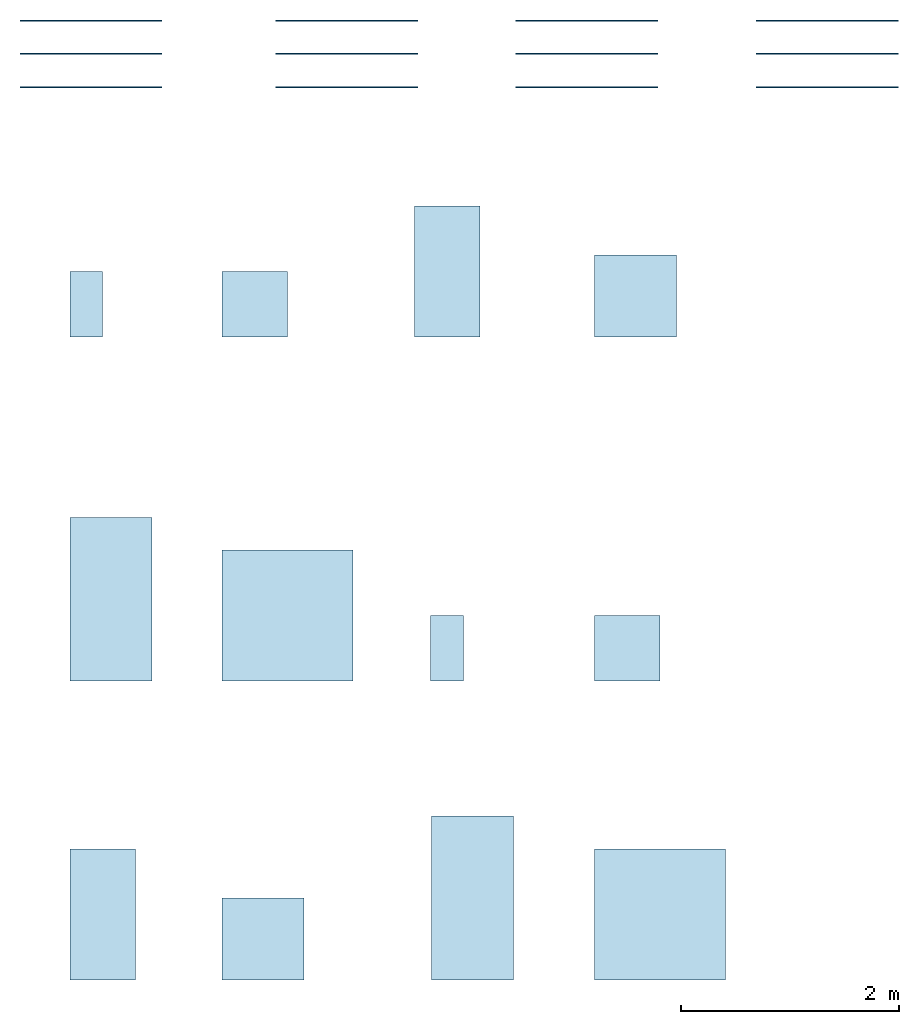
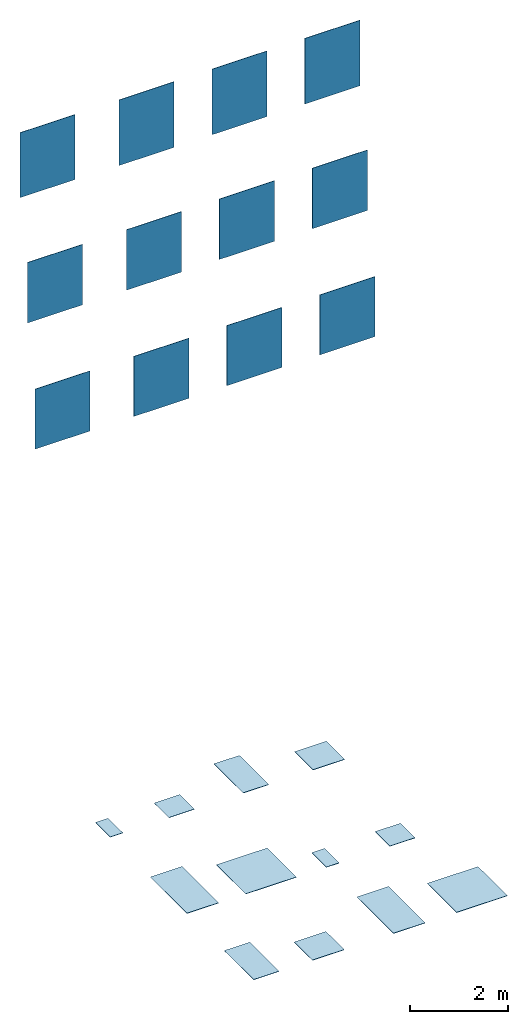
# One storey: 12 slabs, 12 walls.
"""IFC2X3 building model written with IfcOpenShell, lengths in millimetres."""

from ifc_helpers import new_model, entity, si_unit, converted_unit, derived_unit, direction, frame, frame_2d, origin, origin_2d_with_axis, place, context, subcontext, project, spatial, rectangle, extrude, material, layer, layer_set, layer_usage, type_object, element, save


model = new_model("IFC2X3")

# Units and contexts
model_context = context("Model", 3, precision=0.01, world=origin(), true_north=direction((6.12303176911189e-17, 1.0)))
body_context = subcontext(model_context, "Body", "Model", "MODEL_VIEW")
ifc_project = project(units=[si_unit("LENGTHUNIT", "METRE", prefix="MILLI"), si_unit("AREAUNIT", "SQUARE_METRE"), si_unit("VOLUMEUNIT", "CUBIC_METRE"), converted_unit("PLANEANGLEUNIT", "DEGREE", entity("IfcRatioMeasure", 0.0174532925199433), si_unit("PLANEANGLEUNIT", "RADIAN"), dimensions=[0, 0, 0, 0, 0, 0, 0]), si_unit("MASSUNIT", "GRAM", prefix="KILO"), derived_unit("MASSDENSITYUNIT", [(si_unit("MASSUNIT", "GRAM", prefix="KILO"), 1), (si_unit("LENGTHUNIT", "METRE"), -3)]), derived_unit("MOMENTOFINERTIAUNIT", [(si_unit("LENGTHUNIT", "METRE"), 4)]), si_unit("TIMEUNIT", "SECOND"), si_unit("FREQUENCYUNIT", "HERTZ"), si_unit("THERMODYNAMICTEMPERATUREUNIT", "DEGREE_CELSIUS"), derived_unit("THERMALTRANSMITTANCEUNIT", [(si_unit("MASSUNIT", "GRAM", prefix="KILO"), 1), (si_unit("THERMODYNAMICTEMPERATUREUNIT", "KELVIN"), -1), (si_unit("TIMEUNIT", "SECOND"), -3)]), derived_unit("VOLUMETRICFLOWRATEUNIT", [(si_unit("LENGTHUNIT", "METRE"), 3), (si_unit("TIMEUNIT", "SECOND"), -1)]), si_unit("ELECTRICCURRENTUNIT", "AMPERE"), si_unit("ELECTRICVOLTAGEUNIT", "VOLT"), si_unit("POWERUNIT", "WATT"), si_unit("FORCEUNIT", "NEWTON", prefix="KILO"), si_unit("ILLUMINANCEUNIT", "LUX"), si_unit("LUMINOUSFLUXUNIT", "LUMEN"), si_unit("LUMINOUSINTENSITYUNIT", "CANDELA"), derived_unit("USERDEFINED", [(si_unit("MASSUNIT", "GRAM", prefix="KILO"), -1), (si_unit("LENGTHUNIT", "METRE"), -2), (si_unit("TIMEUNIT", "SECOND"), 3), (si_unit("LUMINOUSFLUXUNIT", "LUMEN"), 1)]), derived_unit("LINEARVELOCITYUNIT", [(si_unit("LENGTHUNIT", "METRE"), 1), (si_unit("TIMEUNIT", "SECOND"), -1)]), si_unit("PRESSUREUNIT", "PASCAL"), derived_unit("USERDEFINED", [(si_unit("LENGTHUNIT", "METRE"), -2), (si_unit("MASSUNIT", "GRAM", prefix="KILO"), 1), (si_unit("TIMEUNIT", "SECOND"), -2)]), derived_unit("LINEARFORCEUNIT", [(si_unit("MASSUNIT", "GRAM", prefix="KILO"), 1), (si_unit("LENGTHUNIT", "METRE"), 1), (si_unit("TIMEUNIT", "SECOND"), -2), (si_unit("LENGTHUNIT", "METRE"), -1)]), derived_unit("PLANARFORCEUNIT", [(si_unit("MASSUNIT", "GRAM", prefix="KILO"), 1), (si_unit("LENGTHUNIT", "METRE"), 1), (si_unit("TIMEUNIT", "SECOND"), -2), (si_unit("LENGTHUNIT", "METRE"), -2)])], contexts=[model_context])

# Site, building, storey
site_placement = place(None, origin())
site = spatial("IfcSite", under=ifc_project, at=site_placement, Name="Default", CompositionType="ELEMENT")
building_placement = place(site_placement, origin())
building = spatial("IfcBuilding", under=site, at=building_placement, CompositionType="ELEMENT")
storey_placement = place(building_placement, origin())
storey = spatial("IfcBuildingStorey", under=building, at=storey_placement, Name="Level 0", CompositionType="ELEMENT", Elevation=0.0)

# Slabs
ifc_material_1 = material(Name="Mold-Mist-60x120 NC94")
ifc_layer_1 = layer(ifc_material_1, 9.0)
ifc_material_2 = material(Name="<Unnamed>")
ifc_layer_2 = layer(ifc_material_2, 1.0)
ifc_layer_set_1 = layer_set([ifc_layer_1, ifc_layer_2], Name="Floor:Floor_Tiles_Refin-Mold-Mist-60x120 NC94")
ifc_layer_usage_1 = layer_usage(ifc_layer_set_1, "AXIS3", "POSITIVE", 0.0)
slab_type_1 = type_object("IfcSlabType", Name="Floor:Floor_Tiles_Refin-Mold-Mist-60x120 NC94", PredefinedType="FLOOR", material=ifc_layer_set_1)
slab_1_placement = place(storey_placement, origin())
element("IfcSlab", 1, at=slab_1_placement, inside=storey, type_object=slab_type_1, material=ifc_layer_usage_1, Name="Floor:Floor_Tiles_Refin-Mold-Mist-60x120 NC94", ObjectType="Floor:Floor_Tiles_Refin-Mold-Mist-60x120 NC94", PredefinedType="FLOOR", context=body_context, shape_type="SweptSolid", body=[
    extrude(rectangle(XDim=1200.0, YDim=600.0, at=frame_2d((0.0, 1.08002495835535e-12), x_axis=(1.0, 0.0))), frame((9827.18614186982, 5839.46237428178, 0.0), z_axis=(0.0, 0.0, -1.0), x_axis=(0.0, 1.0, 0.0)), (0.0, 0.0, 1.0), 10.0),
])
ifc_material_3 = material(Name="Mold-Mist-30x60 MX34")
ifc_layer_3 = layer(ifc_material_3, 9.0)
ifc_layer_4 = layer(ifc_material_2, 1.0)
ifc_layer_set_2 = layer_set([ifc_layer_3, ifc_layer_4], Name="Floor:Floor_Tiles_Refin-Mold-Mist-30x60 MX34")
ifc_layer_usage_2 = layer_usage(ifc_layer_set_2, "AXIS3", "POSITIVE", 0.0)
slab_type_2 = type_object("IfcSlabType", Name="Floor:Floor_Tiles_Refin-Mold-Mist-30x60 MX34", PredefinedType="FLOOR", material=ifc_layer_set_2)
slab_2_placement = place(storey_placement, origin())
element("IfcSlab", 2, at=slab_2_placement, inside=storey, type_object=slab_type_2, material=ifc_layer_usage_2, Name="Floor:Floor_Tiles_Refin-Mold-Mist-30x60 MX34", ObjectType="Floor:Floor_Tiles_Refin-Mold-Mist-30x60 MX34", PredefinedType="FLOOR", context=body_context, shape_type="SweptSolid", body=[
    extrude(rectangle(XDim=600.0, YDim=300.0, at=frame_2d((0.0, -5.40012479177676e-13), x_axis=(1.0, 0.0))), frame((6524.37520617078, 5539.4623742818, 0.0), z_axis=(0.0, 0.0, -1.0), x_axis=(0.0, 1.0, 0.0)), (0.0, 0.0, 1.0), 10.0),
])
ifc_material_4 = material(Name="Mold-Mist-120x120 MY50")
ifc_layer_5 = layer(ifc_material_4, 9.0)
ifc_layer_6 = layer(ifc_material_2, 1.0)
ifc_layer_set_3 = layer_set([ifc_layer_5, ifc_layer_6], Name="Floor:Floor_Tiles_Refin-Mold-Mist-120x120 MY50")
ifc_layer_usage_3 = layer_usage(ifc_layer_set_3, "AXIS3", "POSITIVE", 0.0)
slab_type_3 = type_object("IfcSlabType", Name="Floor:Floor_Tiles_Refin-Mold-Mist-120x120 MY50", PredefinedType="FLOOR", material=ifc_layer_set_3)
slab_3_placement = place(storey_placement, origin())
element("IfcSlab", 3, at=slab_3_placement, inside=storey, type_object=slab_type_3, material=ifc_layer_usage_3, Name="Floor:Floor_Tiles_Refin-Mold-Mist-120x120 MY50", ObjectType="Floor:Floor_Tiles_Refin-Mold-Mist-120x120 MY50", PredefinedType="FLOOR", context=body_context, shape_type="SweptSolid", body=[
    extrude(rectangle(XDim=1200.0, YDim=1200.0, at=origin_2d_with_axis()), frame((8367.39240545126, 2689.4623742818, 0.0), z_axis=(0.0, 0.0, -1.0), x_axis=(0.0, 1.0, 0.0)), (0.0, 0.0, 1.0), 10.0),
])
ifc_material_5 = material(Name="Mold-Mist-75x150 MW61")
ifc_layer_7 = layer(ifc_material_5, 9.0)
ifc_layer_8 = layer(ifc_material_2, 1.0)
ifc_layer_set_4 = layer_set([ifc_layer_7, ifc_layer_8], Name="Floor:Floor_Tiles_Refin-Mold-Mist-75x150 MW61")
ifc_layer_usage_4 = layer_usage(ifc_layer_set_4, "AXIS3", "POSITIVE", 0.0)
slab_type_4 = type_object("IfcSlabType", Name="Floor:Floor_Tiles_Refin-Mold-Mist-75x150 MW61", PredefinedType="FLOOR", material=ifc_layer_set_4)
slab_4_placement = place(storey_placement, origin())
element("IfcSlab", 4, at=slab_4_placement, inside=storey, type_object=slab_type_4, material=ifc_layer_usage_4, Name="Floor:Floor_Tiles_Refin-Mold-Mist-75x150 MW61", ObjectType="Floor:Floor_Tiles_Refin-Mold-Mist-75x150 MW61", PredefinedType="FLOOR", context=body_context, shape_type="SweptSolid", body=[
    extrude(rectangle(XDim=1500.0, YDim=750.000000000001, at=origin_2d_with_axis()), frame((6749.37520617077, 2839.4623742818, 0.0), z_axis=(0.0, 0.0, -1.0), x_axis=(0.0, 1.0, 0.0)), (0.0, 0.0, 1.0), 10.0),
])
ifc_material_6 = material(Name="Mold-Mist-60x60 MX66")
ifc_layer_9 = layer(ifc_material_6, 9.0)
ifc_layer_10 = layer(ifc_material_2, 1.0)
ifc_layer_set_5 = layer_set([ifc_layer_9, ifc_layer_10], Name="Floor:Floor_Tiles_Refin-Mold-Mist-60x60 MX66")
ifc_layer_usage_5 = layer_usage(ifc_layer_set_5, "AXIS3", "POSITIVE", 0.0)
slab_type_5 = type_object("IfcSlabType", Name="Floor:Floor_Tiles_Refin-Mold-Mist-60x60 MX66", PredefinedType="FLOOR", material=ifc_layer_set_5)
slab_5_placement = place(storey_placement, origin())
element("IfcSlab", 5, at=slab_5_placement, inside=storey, type_object=slab_type_5, material=ifc_layer_usage_5, Name="Floor:Floor_Tiles_Refin-Mold-Mist-60x60 MX66", ObjectType="Floor:Floor_Tiles_Refin-Mold-Mist-60x60 MX66", PredefinedType="FLOOR", context=body_context, shape_type="SweptSolid", body=[
    extrude(rectangle(XDim=600.0, YDim=600.0, at=origin_2d_with_axis()), frame((8067.39240545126, 5538.41920639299, 0.0), z_axis=(0.0, 0.0, -1.0), x_axis=(0.0, 1.0, 0.0)), (0.0, 0.0, 1.0), 10.0),
])
ifc_material_7 = material(Name="Mold-Mist-Soft-30x60 MX35")
ifc_layer_11 = layer(ifc_material_7, 9.0)
ifc_layer_12 = layer(ifc_material_2, 1.0)
ifc_layer_set_6 = layer_set([ifc_layer_11, ifc_layer_12], Name="Floor:Floor_Tiles_Refin-Mold-Mist-Soft-30x60 MX35")
ifc_layer_usage_6 = layer_usage(ifc_layer_set_6, "AXIS3", "POSITIVE", 0.0)
slab_type_6 = type_object("IfcSlabType", Name="Floor:Floor_Tiles_Refin-Mold-Mist-Soft-30x60 MX35", PredefinedType="FLOOR", material=ifc_layer_set_6)
slab_6_placement = place(storey_placement, origin())
element("IfcSlab", 6, at=slab_6_placement, inside=storey, type_object=slab_type_6, material=ifc_layer_usage_6, Name="Floor:Floor_Tiles_Refin-Mold-Mist-Soft-30x60 MX35", ObjectType="Floor:Floor_Tiles_Refin-Mold-Mist-Soft-30x60 MX35", PredefinedType="FLOOR", context=body_context, shape_type="SweptSolid", body=[
    extrude(rectangle(XDim=600.0, YDim=300.000000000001, at=origin_2d_with_axis()), frame((9827.18614186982, 2389.46237428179, 0.0), z_axis=(0.0, 0.0, -1.0), x_axis=(0.0, 1.0, 0.0)), (0.0, 0.0, 1.0), 10.0),
])
ifc_material_8 = material(Name="Mold-Mist-75x75 MX97")
ifc_layer_13 = layer(ifc_material_8, 9.0)
ifc_layer_14 = layer(ifc_material_2, 1.0)
ifc_layer_set_7 = layer_set([ifc_layer_13, ifc_layer_14], Name="Floor:Floor_Tiles_Refin-Mold-Mist-75x75 MX97")
ifc_layer_usage_7 = layer_usage(ifc_layer_set_7, "AXIS3", "POSITIVE", 0.0)
slab_type_7 = type_object("IfcSlabType", Name="Floor:Floor_Tiles_Refin-Mold-Mist-75x75 MX97", PredefinedType="FLOOR", material=ifc_layer_set_7)
slab_7_placement = place(storey_placement, origin())
element("IfcSlab", 7, at=slab_7_placement, inside=storey, type_object=slab_type_7, material=ifc_layer_usage_7, Name="Floor:Floor_Tiles_Refin-Mold-Mist-75x75 MX97", ObjectType="Floor:Floor_Tiles_Refin-Mold-Mist-75x75 MX97", PredefinedType="FLOOR", context=body_context, shape_type="SweptSolid", body=[
    extrude(rectangle(XDim=750.0, YDim=750.000000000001, at=frame_2d((-5.40012479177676e-13, 1.08002495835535e-12), x_axis=(1.0, 0.0))), frame((11552.1861418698, 5614.46237428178, 0.0), z_axis=(0.0, 0.0, -1.0), x_axis=(0.0, 1.0, 0.0)), (0.0, 0.0, 1.0), 10.0),
])
ifc_material_9 = material(Name="Mold-Mist-Soft-60x60 MX67")
ifc_layer_15 = layer(ifc_material_9, 9.0)
ifc_layer_16 = layer(ifc_material_2, 1.0)
ifc_layer_set_8 = layer_set([ifc_layer_15, ifc_layer_16], Name="Floor:Floor_Tiles_Refin-Mold-Mist-Soft-60x60 MX67")
ifc_layer_usage_8 = layer_usage(ifc_layer_set_8, "AXIS3", "POSITIVE", 0.0)
slab_type_8 = type_object("IfcSlabType", Name="Floor:Floor_Tiles_Refin-Mold-Mist-Soft-60x60 MX67", PredefinedType="FLOOR", material=ifc_layer_set_8)
slab_8_placement = place(storey_placement, origin())
element("IfcSlab", 8, at=slab_8_placement, inside=storey, type_object=slab_type_8, material=ifc_layer_usage_8, Name="Floor:Floor_Tiles_Refin-Mold-Mist-Soft-60x60 MX67", ObjectType="Floor:Floor_Tiles_Refin-Mold-Mist-Soft-60x60 MX67", PredefinedType="FLOOR", context=body_context, shape_type="SweptSolid", body=[
    extrude(rectangle(XDim=600.0, YDim=600.0, at=frame_2d((0.0, -1.08002495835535e-12), x_axis=(1.0, 0.0))), frame((11477.1861418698, 2389.46237428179, 0.0), z_axis=(0.0, 0.0, -1.0), x_axis=(0.0, 1.0, 0.0)), (0.0, 0.0, 1.0), 10.0),
])
ifc_material_10 = material(Name="Mold-Mist-Soft-75x75 MX98")
ifc_layer_17 = layer(ifc_material_10, 9.0)
ifc_layer_18 = layer(ifc_material_2, 1.0)
ifc_layer_set_9 = layer_set([ifc_layer_17, ifc_layer_18], Name="Floor:Floor_Tiles_Refin-Mold-Mist-Soft-75x75 MX98")
ifc_layer_usage_9 = layer_usage(ifc_layer_set_9, "AXIS3", "POSITIVE", 0.0)
slab_type_9 = type_object("IfcSlabType", Name="Floor:Floor_Tiles_Refin-Mold-Mist-Soft-75x75 MX98", PredefinedType="FLOOR", material=ifc_layer_set_9)
slab_9_placement = place(storey_placement, origin())
element("IfcSlab", 9, at=slab_9_placement, inside=storey, type_object=slab_type_9, material=ifc_layer_usage_9, Name="Floor:Floor_Tiles_Refin-Mold-Mist-Soft-75x75 MX98", ObjectType="Floor:Floor_Tiles_Refin-Mold-Mist-Soft-75x75 MX98", PredefinedType="FLOOR", context=body_context, shape_type="SweptSolid", body=[
    extrude(rectangle(XDim=750.0, YDim=750.000000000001, at=origin_2d_with_axis()), frame((8142.39240545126, -271.563276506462, 0.0), z_axis=(0.0, 0.0, -1.0), x_axis=(0.0, 1.0, 0.0)), (0.0, 0.0, 1.0), 10.0),
])
ifc_material_11 = material(Name="Mold-Mist-Soft-75x150 MW65")
ifc_layer_19 = layer(ifc_material_11, 9.0)
ifc_layer_20 = layer(ifc_material_2, 1.0)
ifc_layer_set_10 = layer_set([ifc_layer_19, ifc_layer_20], Name="Floor:Floor_Tiles_Refin-Mold-Mist-Soft-75x150 MW65")
ifc_layer_usage_10 = layer_usage(ifc_layer_set_10, "AXIS3", "POSITIVE", 0.0)
slab_type_10 = type_object("IfcSlabType", Name="Floor:Floor_Tiles_Refin-Mold-Mist-Soft-75x150 MW65", PredefinedType="FLOOR", material=ifc_layer_set_10)
slab_10_placement = place(storey_placement, origin())
element("IfcSlab", 10, at=slab_10_placement, inside=storey, type_object=slab_type_10, material=ifc_layer_usage_10, Name="Floor:Floor_Tiles_Refin-Mold-Mist-Soft-75x150 MW65", ObjectType="Floor:Floor_Tiles_Refin-Mold-Mist-Soft-75x150 MW65", PredefinedType="FLOOR", context=body_context, shape_type="SweptSolid", body=[
    extrude(rectangle(XDim=1500.0, YDim=750.000000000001, at=frame_2d((0.0, -1.08002495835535e-12), x_axis=(1.0, 0.0))), frame((10059.1689425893, 103.436723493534, 0.0), z_axis=(0.0, 0.0, -1.0), x_axis=(0.0, 1.0, 0.0)), (0.0, 0.0, 1.0), 10.0),
])
ifc_material_12 = material(Name="Mold-Mist-Soft-60x120 NC95")
ifc_layer_21 = layer(ifc_material_12, 9.0)
ifc_layer_22 = layer(ifc_material_2, 1.0)
ifc_layer_set_11 = layer_set([ifc_layer_21, ifc_layer_22], Name="Floor:Floor_Tiles_Refin-Mold-Mist-Soft-60x120 NC95")
ifc_layer_usage_11 = layer_usage(ifc_layer_set_11, "AXIS3", "POSITIVE", 0.0)
slab_type_11 = type_object("IfcSlabType", Name="Floor:Floor_Tiles_Refin-Mold-Mist-Soft-60x120 NC95", PredefinedType="FLOOR", material=ifc_layer_set_11)
slab_11_placement = place(storey_placement, origin())
element("IfcSlab", 11, at=slab_11_placement, inside=storey, type_object=slab_type_11, material=ifc_layer_usage_11, Name="Floor:Floor_Tiles_Refin-Mold-Mist-Soft-60x120 NC95", ObjectType="Floor:Floor_Tiles_Refin-Mold-Mist-Soft-60x120 NC95", PredefinedType="FLOOR", context=body_context, shape_type="SweptSolid", body=[
    extrude(rectangle(XDim=1200.0, YDim=600.0, at=origin_2d_with_axis()), frame((6674.37520617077, -46.5632765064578, 0.0), z_axis=(0.0, 0.0, -1.0), x_axis=(0.0, 1.0, 0.0)), (0.0, 0.0, 1.0), 10.0),
])
ifc_material_13 = material(Name="Mold-Mist-Soft-120x120 MY51")
ifc_layer_23 = layer(ifc_material_13, 9.0)
ifc_layer_24 = layer(ifc_material_2, 1.0)
ifc_layer_set_12 = layer_set([ifc_layer_23, ifc_layer_24], Name="Floor:Floor_Tiles_Refin-Mold-Mist-Soft-120x120 MY51")
ifc_layer_usage_12 = layer_usage(ifc_layer_set_12, "AXIS3", "POSITIVE", 0.0)
slab_type_12 = type_object("IfcSlabType", Name="Floor:Floor_Tiles_Refin-Mold-Mist-Soft-120x120 MY51", PredefinedType="FLOOR", material=ifc_layer_set_12)
slab_12_placement = place(storey_placement, origin())
element("IfcSlab", 12, at=slab_12_placement, inside=storey, type_object=slab_type_12, material=ifc_layer_usage_12, Name="Floor:Floor_Tiles_Refin-Mold-Mist-Soft-120x120 MY51", ObjectType="Floor:Floor_Tiles_Refin-Mold-Mist-Soft-120x120 MY51", PredefinedType="FLOOR", context=body_context, shape_type="SweptSolid", body=[
    extrude(rectangle(XDim=1200.0, YDim=1200.0, at=origin_2d_with_axis()), frame((11777.1861418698, -46.5632765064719, 0.0), z_axis=(0.0, 0.0, -1.0), x_axis=(0.0, 1.0, 0.0)), (0.0, 0.0, 1.0), 10.0),
])

# Walls
ifc_layer_25 = layer(ifc_material_2, 1.0)
ifc_layer_26 = layer(ifc_material_6, 9.0)
ifc_layer_set_13 = layer_set([ifc_layer_25, ifc_layer_26], Name="Basic Wall:Wall_Tiles_Refin-Mold-Mist-60x60 MX66")
ifc_layer_usage_13 = layer_usage(ifc_layer_set_13, "AXIS2", "NEGATIVE", 5.0)
wall_type_1 = type_object("IfcWallType", Name="Basic Wall:Wall_Tiles_Refin-Mold-Mist-60x60 MX66", PredefinedType="STANDARD", material=ifc_layer_set_13)
wall_1_placement = place(storey_placement, frame((8257.37520617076, 8137.38386313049, 14387.6770443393)))
element("IfcWallStandardCase", 13, at=wall_1_placement, inside=storey, type_object=wall_type_1, material=ifc_layer_usage_13, Name="Basic Wall:Wall_Tiles_Refin-Mold-Mist-60x60 MX66", ObjectType="Basic Wall:Wall_Tiles_Refin-Mold-Mist-60x60 MX66", context=body_context, shape_type="SweptSolid", body=[
    extrude(rectangle(XDim=1300.0, YDim=9.99999999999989, at=frame_2d((650.0, 7.63833440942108e-14), x_axis=(-1.0, 0.0))), origin(), (0.0, 0.0, 1.0), 1641.74173522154),
])
ifc_layer_27 = layer(ifc_material_2, 1.0)
ifc_layer_28 = layer(ifc_material_1, 9.0)
ifc_layer_set_14 = layer_set([ifc_layer_27, ifc_layer_28], Name="Basic Wall:Wall_Tiles_Refin-Mold-Mist-60x120 NC94")
ifc_layer_usage_14 = layer_usage(ifc_layer_set_14, "AXIS2", "NEGATIVE", 5.0)
wall_type_2 = type_object("IfcWallType", Name="Basic Wall:Wall_Tiles_Refin-Mold-Mist-60x120 NC94", PredefinedType="STANDARD", material=ifc_layer_set_14)
wall_2_placement = place(storey_placement, frame((10457.3752061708, 8137.38386313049, 14387.6770443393)))
element("IfcWallStandardCase", 14, at=wall_2_placement, inside=storey, type_object=wall_type_2, material=ifc_layer_usage_14, Name="Basic Wall:Wall_Tiles_Refin-Mold-Mist-60x120 NC94", ObjectType="Basic Wall:Wall_Tiles_Refin-Mold-Mist-60x120 NC94", context=body_context, shape_type="SweptSolid", body=[
    extrude(rectangle(XDim=1300.0, YDim=9.99999999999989, at=frame_2d((650.0, 7.63833440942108e-14), x_axis=(-1.0, 0.0))), origin(), (0.0, 0.0, 1.0), 1641.74173522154),
])
ifc_layer_29 = layer(ifc_material_2, 1.0)
ifc_layer_30 = layer(ifc_material_3, 9.0)
ifc_layer_set_15 = layer_set([ifc_layer_29, ifc_layer_30], Name="Basic Wall:Wall_Tiles_Refin-Mold-Mist-30x60 MX34")
ifc_layer_usage_15 = layer_usage(ifc_layer_set_15, "AXIS2", "NEGATIVE", 5.0)
wall_type_3 = type_object("IfcWallType", Name="Basic Wall:Wall_Tiles_Refin-Mold-Mist-30x60 MX34", PredefinedType="STANDARD", material=ifc_layer_set_15)
wall_3_placement = place(storey_placement, frame((5917.37520617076, 8137.38386313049, 14403.726734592)))
element("IfcWallStandardCase", 15, at=wall_3_placement, inside=storey, type_object=wall_type_3, material=ifc_layer_usage_15, Name="Basic Wall:Wall_Tiles_Refin-Mold-Mist-30x60 MX34", ObjectType="Basic Wall:Wall_Tiles_Refin-Mold-Mist-30x60 MX34", context=body_context, shape_type="SweptSolid", body=[
    extrude(rectangle(XDim=1300.0, YDim=9.99999999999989, at=frame_2d((650.0, 7.63833440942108e-14), x_axis=(-1.0, 0.0))), origin(), (0.0, 0.0, 1.0), 1625.69204496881),
])
ifc_layer_31 = layer(ifc_material_2, 1.0)
ifc_layer_32 = layer(ifc_material_5, 9.0)
ifc_layer_set_16 = layer_set([ifc_layer_31, ifc_layer_32], Name="Basic Wall:Wall_Tiles_Refin-Mold-Mist-75x150 MW61")
ifc_layer_usage_16 = layer_usage(ifc_layer_set_16, "AXIS2", "NEGATIVE", 5.0)
wall_type_4 = type_object("IfcWallType", Name="Basic Wall:Wall_Tiles_Refin-Mold-Mist-75x150 MW61", PredefinedType="STANDARD", material=ifc_layer_set_16)
wall_4_placement = place(storey_placement, frame((5917.37520617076, 7832.38386313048, 11452.5436262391)))
element("IfcWallStandardCase", 16, at=wall_4_placement, inside=storey, type_object=wall_type_4, material=ifc_layer_usage_16, Name="Basic Wall:Wall_Tiles_Refin-Mold-Mist-75x150 MW61", ObjectType="Basic Wall:Wall_Tiles_Refin-Mold-Mist-75x150 MW61", context=body_context, shape_type="SweptSolid", body=[
    extrude(rectangle(XDim=1300.0, YDim=9.99999999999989, at=frame_2d((650.0, 0.0), x_axis=(-1.0, 0.0))), origin(), (0.0, 0.0, 1.0), 1513.19855655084),
])
ifc_layer_33 = layer(ifc_material_2, 1.0)
ifc_layer_34 = layer(ifc_material_4, 9.0)
ifc_layer_set_17 = layer_set([ifc_layer_33, ifc_layer_34], Name="Basic Wall:Wall_Tiles_Refin-Mold-Mist-120x120 MY50")
ifc_layer_usage_17 = layer_usage(ifc_layer_set_17, "AXIS2", "NEGATIVE", 5.0)
wall_type_5 = type_object("IfcWallType", Name="Basic Wall:Wall_Tiles_Refin-Mold-Mist-120x120 MY50", PredefinedType="STANDARD", material=ifc_layer_set_17)
wall_5_placement = place(storey_placement, frame((8257.37520617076, 7832.38386313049, 11452.5436262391)))
element("IfcWallStandardCase", 17, at=wall_5_placement, inside=storey, type_object=wall_type_5, material=ifc_layer_usage_17, Name="Basic Wall:Wall_Tiles_Refin-Mold-Mist-120x120 MY50", ObjectType="Basic Wall:Wall_Tiles_Refin-Mold-Mist-120x120 MY50", context=body_context, shape_type="SweptSolid", body=[
    extrude(rectangle(XDim=1300.0, YDim=9.99999999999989, at=frame_2d((650.0, 0.0), x_axis=(-1.0, 0.0))), origin(), (0.0, 0.0, 1.0), 1513.19855655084),
])
ifc_layer_35 = layer(ifc_material_2, 1.0)
ifc_layer_36 = layer(ifc_material_7, 9.0)
ifc_layer_set_18 = layer_set([ifc_layer_35, ifc_layer_36], Name="Basic Wall:Wall_Tiles_Refin-Mold-Mist-Soft-30x60 MX35")
ifc_layer_usage_18 = layer_usage(ifc_layer_set_18, "AXIS2", "NEGATIVE", 5.0)
wall_type_6 = type_object("IfcWallType", Name="Basic Wall:Wall_Tiles_Refin-Mold-Mist-Soft-30x60 MX35", PredefinedType="STANDARD", material=ifc_layer_set_18)
wall_6_placement = place(storey_placement, frame((10457.3752061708, 7832.38386313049, 11452.5436262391)))
element("IfcWallStandardCase", 18, at=wall_6_placement, inside=storey, type_object=wall_type_6, material=ifc_layer_usage_18, Name="Basic Wall:Wall_Tiles_Refin-Mold-Mist-Soft-30x60 MX35", ObjectType="Basic Wall:Wall_Tiles_Refin-Mold-Mist-Soft-30x60 MX35", context=body_context, shape_type="SweptSolid", body=[
    extrude(rectangle(XDim=1300.0, YDim=9.99999999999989, at=frame_2d((650.000000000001, 0.0), x_axis=(-1.0, 0.0))), origin(), (0.0, 0.0, 1.0), 1513.19855655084),
])
ifc_layer_37 = layer(ifc_material_2, 1.0)
ifc_layer_38 = layer(ifc_material_12, 9.0)
ifc_layer_set_19 = layer_set([ifc_layer_37, ifc_layer_38], Name="Basic Wall:Wall_Tiles_Refin-Mold-Mist-Soft-60x120 NC95")
ifc_layer_usage_19 = layer_usage(ifc_layer_set_19, "AXIS2", "NEGATIVE", 5.0)
wall_type_7 = type_object("IfcWallType", Name="Basic Wall:Wall_Tiles_Refin-Mold-Mist-Soft-60x120 NC95", PredefinedType="STANDARD", material=ifc_layer_set_19)
wall_7_placement = place(storey_placement, frame((5917.37520617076, 7527.38386313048, 8479.10272143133)))
element("IfcWallStandardCase", 19, at=wall_7_placement, inside=storey, type_object=wall_type_7, material=ifc_layer_usage_19, Name="Basic Wall:Wall_Tiles_Refin-Mold-Mist-Soft-60x120 NC95", ObjectType="Basic Wall:Wall_Tiles_Refin-Mold-Mist-Soft-60x120 NC95", context=body_context, shape_type="SweptSolid", body=[
    extrude(rectangle(XDim=1300.0, YDim=9.99999999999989, at=frame_2d((650.0, 0.0), x_axis=(-1.0, 0.0))), origin(), (0.0, 0.0, 1.0), 1502.57401590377),
])
ifc_layer_39 = layer(ifc_material_2, 1.0)
ifc_layer_40 = layer(ifc_material_10, 9.0)
ifc_layer_set_20 = layer_set([ifc_layer_39, ifc_layer_40], Name="Basic Wall:Wall_Tiles_Refin-Mold-Mist-Soft-75x75 MX98")
ifc_layer_usage_20 = layer_usage(ifc_layer_set_20, "AXIS2", "NEGATIVE", 5.0)
wall_type_8 = type_object("IfcWallType", Name="Basic Wall:Wall_Tiles_Refin-Mold-Mist-Soft-75x75 MX98", PredefinedType="STANDARD", material=ifc_layer_set_20)
wall_8_placement = place(storey_placement, frame((8257.37520617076, 7527.38386313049, 8479.10272143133)))
element("IfcWallStandardCase", 20, at=wall_8_placement, inside=storey, type_object=wall_type_8, material=ifc_layer_usage_20, Name="Basic Wall:Wall_Tiles_Refin-Mold-Mist-Soft-75x75 MX98", ObjectType="Basic Wall:Wall_Tiles_Refin-Mold-Mist-Soft-75x75 MX98", context=body_context, shape_type="SweptSolid", body=[
    extrude(rectangle(XDim=1300.0, YDim=9.99999999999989, at=frame_2d((650.0, 0.0), x_axis=(-1.0, 0.0))), origin(), (0.0, 0.0, 1.0), 1502.57401590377),
])
ifc_layer_41 = layer(ifc_material_2, 1.0)
ifc_layer_42 = layer(ifc_material_11, 9.0)
ifc_layer_set_21 = layer_set([ifc_layer_41, ifc_layer_42], Name="Basic Wall:Wall_Tiles_Refin-Mold-Mist-Soft-75x150 MW65")
ifc_layer_usage_21 = layer_usage(ifc_layer_set_21, "AXIS2", "NEGATIVE", 5.0)
wall_type_9 = type_object("IfcWallType", Name="Basic Wall:Wall_Tiles_Refin-Mold-Mist-Soft-75x150 MW65", PredefinedType="STANDARD", material=ifc_layer_set_21)
wall_9_placement = place(storey_placement, frame((10457.3752061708, 7527.38386313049, 8479.10272143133)))
element("IfcWallStandardCase", 21, at=wall_9_placement, inside=storey, type_object=wall_type_9, material=ifc_layer_usage_21, Name="Basic Wall:Wall_Tiles_Refin-Mold-Mist-Soft-75x150 MW65", ObjectType="Basic Wall:Wall_Tiles_Refin-Mold-Mist-Soft-75x150 MW65", context=body_context, shape_type="SweptSolid", body=[
    extrude(rectangle(XDim=1300.0, YDim=9.99999999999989, at=frame_2d((650.000000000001, 0.0), x_axis=(-1.0, 0.0))), origin(), (0.0, 0.0, 1.0), 1502.57401590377),
])
ifc_layer_43 = layer(ifc_material_2, 1.0)
ifc_layer_44 = layer(ifc_material_8, 9.0)
ifc_layer_set_22 = layer_set([ifc_layer_43, ifc_layer_44], Name="Basic Wall:Wall_Tiles_Refin-Mold-Mist-75x75 MX97")
ifc_layer_usage_22 = layer_usage(ifc_layer_set_22, "AXIS2", "NEGATIVE", 5.0)
wall_type_10 = type_object("IfcWallType", Name="Basic Wall:Wall_Tiles_Refin-Mold-Mist-75x75 MX97", PredefinedType="STANDARD", material=ifc_layer_set_22)
wall_10_placement = place(storey_placement, frame((12657.3752061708, 8137.3838631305, 14387.6770443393)))
element("IfcWallStandardCase", 22, at=wall_10_placement, inside=storey, type_object=wall_type_10, material=ifc_layer_usage_22, Name="Basic Wall:Wall_Tiles_Refin-Mold-Mist-75x75 MX97", ObjectType="Basic Wall:Wall_Tiles_Refin-Mold-Mist-75x75 MX97", context=body_context, shape_type="SweptSolid", body=[
    extrude(rectangle(XDim=1300.0, YDim=9.99999999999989, at=frame_2d((650.0, 7.63833440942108e-14), x_axis=(-1.0, 0.0))), origin(), (0.0, 0.0, 1.0), 1641.74173522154),
])
ifc_layer_45 = layer(ifc_material_2, 1.0)
ifc_layer_46 = layer(ifc_material_9, 9.0)
ifc_layer_set_23 = layer_set([ifc_layer_45, ifc_layer_46], Name="Basic Wall:Wall_Tiles_Refin-Mold-Mist-Soft-60x60 MX67")
ifc_layer_usage_23 = layer_usage(ifc_layer_set_23, "AXIS2", "NEGATIVE", 5.0)
wall_type_11 = type_object("IfcWallType", Name="Basic Wall:Wall_Tiles_Refin-Mold-Mist-Soft-60x60 MX67", PredefinedType="STANDARD", material=ifc_layer_set_23)
wall_11_placement = place(storey_placement, frame((12657.3752061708, 7832.3838631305, 11452.5436262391)))
element("IfcWallStandardCase", 23, at=wall_11_placement, inside=storey, type_object=wall_type_11, material=ifc_layer_usage_23, Name="Basic Wall:Wall_Tiles_Refin-Mold-Mist-Soft-60x60 MX67", ObjectType="Basic Wall:Wall_Tiles_Refin-Mold-Mist-Soft-60x60 MX67", context=body_context, shape_type="SweptSolid", body=[
    extrude(rectangle(XDim=1300.0, YDim=9.99999999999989, at=frame_2d((650.0, 0.0), x_axis=(-1.0, 0.0))), origin(), (0.0, 0.0, 1.0), 1513.19855655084),
])
ifc_layer_47 = layer(ifc_material_2, 1.0)
ifc_layer_48 = layer(ifc_material_13, 9.0)
ifc_layer_set_24 = layer_set([ifc_layer_47, ifc_layer_48], Name="Basic Wall:Wall_Tiles_Refin-Mold-Mist-Soft-120x120 MY51")
ifc_layer_usage_24 = layer_usage(ifc_layer_set_24, "AXIS2", "NEGATIVE", 5.0)
wall_type_12 = type_object("IfcWallType", Name="Basic Wall:Wall_Tiles_Refin-Mold-Mist-Soft-120x120 MY51", PredefinedType="STANDARD", material=ifc_layer_set_24)
wall_12_placement = place(storey_placement, frame((12657.3752061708, 7527.3838631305, 8479.10272143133)))
element("IfcWallStandardCase", 24, at=wall_12_placement, inside=storey, type_object=wall_type_12, material=ifc_layer_usage_24, Name="Basic Wall:Wall_Tiles_Refin-Mold-Mist-Soft-120x120 MY51", ObjectType="Basic Wall:Wall_Tiles_Refin-Mold-Mist-Soft-120x120 MY51", context=body_context, shape_type="SweptSolid", body=[
    extrude(rectangle(XDim=1300.0, YDim=9.99999999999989, at=frame_2d((650.0, 0.0), x_axis=(-1.0, 0.0))), origin(), (0.0, 0.0, 1.0), 1502.57401590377),
])

save(model, "model.ifc")
